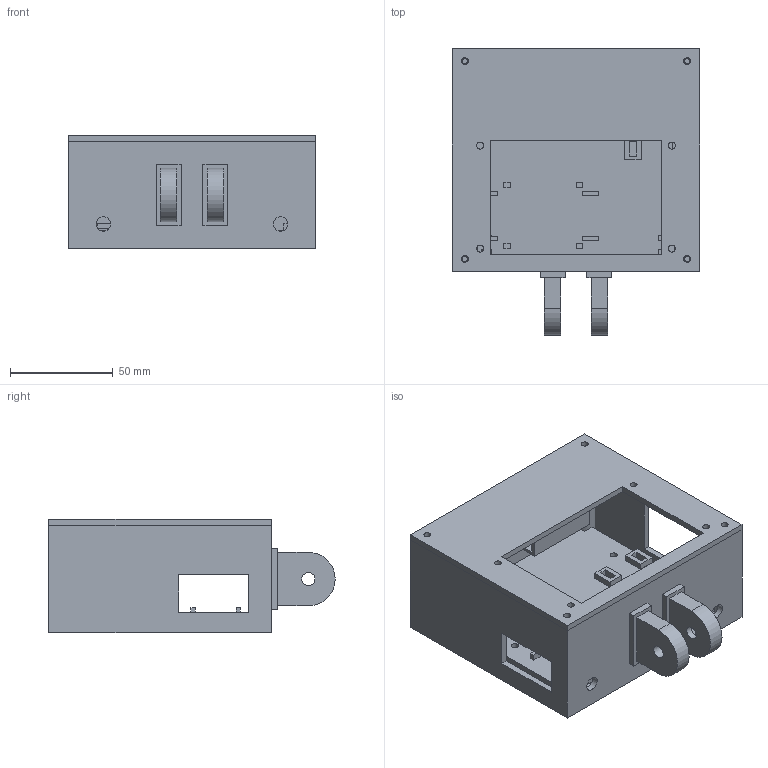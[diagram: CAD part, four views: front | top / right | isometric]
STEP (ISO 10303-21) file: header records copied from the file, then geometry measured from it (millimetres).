
FILE_DESCRIPTION(('Open CASCADE Model'),'2;1');
FILE_NAME('Open CASCADE Shape Model','2026-11-06T11:30:49',('Author'),( 'Open CASCADE'),'Open CASCADE STEP processor 7.8','Open CASCADE 7.8' ,'Unknown');
FILE_SCHEMA(('AUTOMOTIVE_DESIGN { 1 0 10303 214 1 1 1 1 }'));
Length unit declared in the file: millimetre
Products named in the file (4): LapTimer_PETG_prototype; 01_Housing; 02_Front_bezel; 03_Electronics_carrier
Assembly tree (3 placements, depth 2):
  LapTimer_PETG_prototype
    01_Housing
    02_Front_bezel
    03_Electronics_carrier
Bounding box: 120 x 139 x 55 mm (x, y, z)
Volume: 179677.3 mm3; surface area: 117753 mm2
Topology: 3 solids, 3 shells, 225 faces, 565 edges, 375 vertices
Faces by surface type: plane 182, cylinder 43
Full cylindrical faces by diameter (mm): 2.7 x8, 3.4 x15, 6.4 x2, 7 x2, 7.5 x4, 8 x4
Entity records: 13905 total; most frequent: CARTESIAN_POINT 2639, DIRECTION 1911, LINE 1191, VECTOR 1191, ORIENTED_EDGE 1130, PCURVE 1130, DEFINITIONAL_REPRESENTATION 1130, EDGE_CURVE 565
